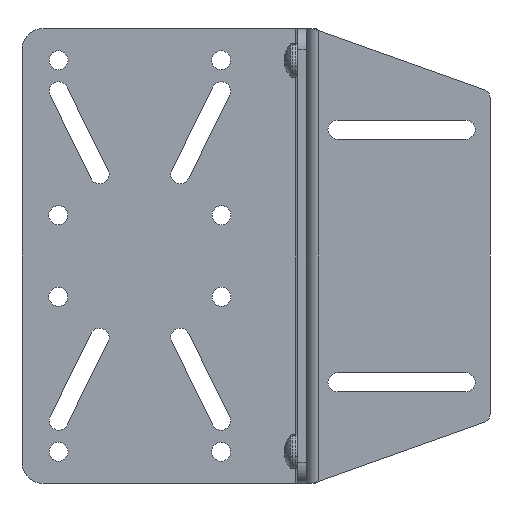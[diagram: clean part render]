
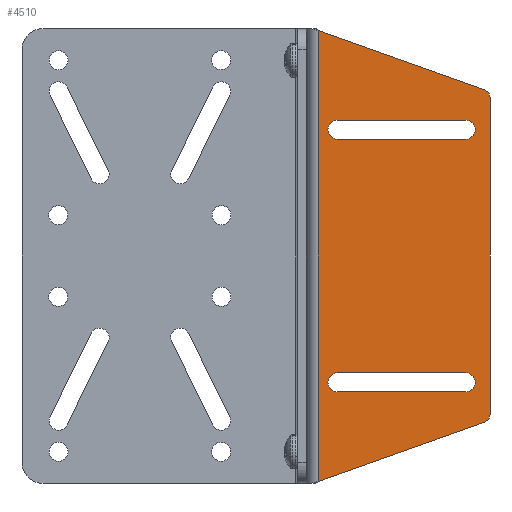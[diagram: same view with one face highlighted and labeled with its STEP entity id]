
A CAD part, front view. The second image highlights one B-rep face of the part: STEP entity #4510.
In plain terms, the highlighted planar face has unit normal (0, -1, 0).
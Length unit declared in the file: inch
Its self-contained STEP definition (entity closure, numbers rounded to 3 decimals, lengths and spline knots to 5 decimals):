
#106 = DIRECTION ( 'NONE',  ( 0., 0., 1. ) ) ;
#221 = EDGE_LOOP ( 'NONE', ( #6812, #4600, #9163, #9695 ) ) ;
#263 = CARTESIAN_POINT ( 'NONE',  ( 1.91929, 0.00404, 1.09252 ) ) ;
#352 = LINE ( 'NONE', #6564, #5195 ) ;
#536 = VERTEX_POINT ( 'NONE', #4250 ) ;
#538 = CARTESIAN_POINT ( 'NONE',  ( 0., 0.00404, 0. ) ) ;
#738 = CARTESIAN_POINT ( 'NONE',  ( 1.91929, 0.00404, 1.26969 ) ) ;
#853 = ORIENTED_EDGE ( 'NONE', *, *, #11726, .T. ) ;
#890 = VECTOR ( 'NONE', #10667, 39.37008 ) ;
#934 = CARTESIAN_POINT ( 'NONE',  ( 0.86489, 0.00404, -2.42171 ) ) ;
#936 = DIRECTION ( 'NONE',  ( 0., 0., 1. ) ) ;
#941 = CARTESIAN_POINT ( 'NONE',  ( 3.2942, 0.00404, 1.5541 ) ) ;
#960 = DIRECTION ( 'NONE',  ( 0.942, 0., -0.336 ) ) ;
#1335 = CARTESIAN_POINT ( 'NONE',  ( 1.74202, 0.00404, 0. ) ) ;
#1506 = LINE ( 'NONE', #1787, #11553 ) ;
#1605 = CARTESIAN_POINT ( 'NONE',  ( 1.91929, 0.00404, 1.09252 ) ) ;
#1633 = EDGE_CURVE ( 'NONE', #9556, #9101, #10393, .T. ) ;
#1787 = CARTESIAN_POINT ( 'NONE',  ( 3.34646, 0.00404, 0. ) ) ;
#2023 = ORIENTED_EDGE ( 'NONE', *, *, #6347, .T. ) ;
#2075 = DIRECTION ( 'NONE',  ( 0., 1., 0. ) ) ;
#2196 = EDGE_CURVE ( 'NONE', #10680, #9989, #6879, .T. ) ;
#2242 = EDGE_CURVE ( 'NONE', #2975, #5064, #8563, .T. ) ;
#2604 = EDGE_CURVE ( 'NONE', #7159, #6023, #352, .T. ) ;
#2647 = DIRECTION ( 'NONE',  ( 0., -1., 0. ) ) ;
#2749 = CIRCLE ( 'NONE', #6221, 0.08858 ) ;
#2819 = DIRECTION ( 'NONE',  ( 0., 0., -1. ) ) ;
#2975 = VERTEX_POINT ( 'NONE', #4273 ) ;
#3232 = ORIENTED_EDGE ( 'NONE', *, *, #10855, .F. ) ;
#3322 = ORIENTED_EDGE ( 'NONE', *, *, #7116, .T. ) ;
#3340 = AXIS2_PLACEMENT_3D ( 'NONE', #538, #10269, #4419 ) ;
#3394 = VECTOR ( 'NONE', #7803, 39.37008 ) ;
#3459 = VECTOR ( 'NONE', #11468, 39.37008 ) ;
#3470 = LINE ( 'NONE', #934, #890 ) ;
#3589 = CARTESIAN_POINT ( 'NONE',  ( 3.2942, 0.00404, -1.5541 ) ) ;
#3939 = CARTESIAN_POINT ( 'NONE',  ( 3.26772, 0.00404, -1.47994 ) ) ;
#4250 = CARTESIAN_POINT ( 'NONE',  ( 3.34646, 0.00404, 1.47994 ) ) ;
#4255 = AXIS2_PLACEMENT_3D ( 'NONE', #11748, #5901, #106 ) ;
#4273 = CARTESIAN_POINT ( 'NONE',  ( 1.91929, 0.00404, -1.26969 ) ) ;
#4385 = ORIENTED_EDGE ( 'NONE', *, *, #2242, .F. ) ;
#4419 = DIRECTION ( 'NONE',  ( 0., 0., 1. ) ) ;
#4510 = ADVANCED_FACE ( 'NONE', ( #10963, #6065, #8673 ), #10230, .F. ) ;
#4600 = ORIENTED_EDGE ( 'NONE', *, *, #7332, .T. ) ;
#4708 = CARTESIAN_POINT ( 'NONE',  ( 1.74202, 0.00404, -2.10845 ) ) ;
#4780 = CARTESIAN_POINT ( 'NONE',  ( 1.91929, 0.00404, -1.1811 ) ) ;
#4794 = CARTESIAN_POINT ( 'NONE',  ( 3.12008, 0.00404, -1.26969 ) ) ;
#4857 = CARTESIAN_POINT ( 'NONE',  ( 1.91929, 0.00404, -1.26969 ) ) ;
#4920 = CARTESIAN_POINT ( 'NONE',  ( 3.12008, 0.00404, -1.1811 ) ) ;
#4997 = EDGE_CURVE ( 'NONE', #9989, #536, #1506, .T. ) ;
#5064 = VERTEX_POINT ( 'NONE', #4794 ) ;
#5195 = VECTOR ( 'NONE', #10574, 39.37008 ) ;
#5355 = EDGE_CURVE ( 'NONE', #7420, #6972, #6067, .T. ) ;
#5547 = AXIS2_PLACEMENT_3D ( 'NONE', #3939, #11382, #936 ) ;
#5755 = DIRECTION ( 'NONE',  ( 0., 0., 1. ) ) ;
#5900 = DIRECTION ( 'NONE',  ( 0., 0., 1. ) ) ;
#5901 = DIRECTION ( 'NONE',  ( 0., 1., 0. ) ) ;
#6023 = VERTEX_POINT ( 'NONE', #7572 ) ;
#6031 = VERTEX_POINT ( 'NONE', #11459 ) ;
#6065 = FACE_BOUND ( 'NONE', #9966, .T. ) ;
#6067 = LINE ( 'NONE', #1605, #8974 ) ;
#6206 = ORIENTED_EDGE ( 'NONE', *, *, #1633, .T. ) ;
#6221 = AXIS2_PLACEMENT_3D ( 'NONE', #4920, #11747, #5900 ) ;
#6322 = LINE ( 'NONE', #6562, #3459 ) ;
#6347 = EDGE_CURVE ( 'NONE', #9101, #10680, #3470, .T. ) ;
#6379 = AXIS2_PLACEMENT_3D ( 'NONE', #4780, #11606, #5755 ) ;
#6562 = CARTESIAN_POINT ( 'NONE',  ( 1.91929, 0.00404, -1.09252 ) ) ;
#6564 = CARTESIAN_POINT ( 'NONE',  ( 1.91929, 0.00404, 1.26969 ) ) ;
#6808 = VECTOR ( 'NONE', #960, 39.37008 ) ;
#6812 = ORIENTED_EDGE ( 'NONE', *, *, #2604, .T. ) ;
#6879 = CIRCLE ( 'NONE', #5547, 0.07874 ) ;
#6941 = CARTESIAN_POINT ( 'NONE',  ( 1.91929, 0.00404, -1.09252 ) ) ;
#6972 = VERTEX_POINT ( 'NONE', #7182 ) ;
#7107 = AXIS2_PLACEMENT_3D ( 'NONE', #8459, #2647, #9441 ) ;
#7116 = EDGE_CURVE ( 'NONE', #536, #10277, #9860, .T. ) ;
#7159 = VERTEX_POINT ( 'NONE', #738 ) ;
#7182 = CARTESIAN_POINT ( 'NONE',  ( 3.12008, 0.00404, 1.09252 ) ) ;
#7332 = EDGE_CURVE ( 'NONE', #6023, #6972, #10934, .T. ) ;
#7420 = VERTEX_POINT ( 'NONE', #263 ) ;
#7572 = CARTESIAN_POINT ( 'NONE',  ( 3.12008, 0.00404, 1.26969 ) ) ;
#7600 = ORIENTED_EDGE ( 'NONE', *, *, #7786, .T. ) ;
#7605 = DIRECTION ( 'NONE',  ( 0., 0., 1. ) ) ;
#7786 = EDGE_CURVE ( 'NONE', #2975, #11967, #12441, .T. ) ;
#7803 = DIRECTION ( 'NONE',  ( 1., 0., 0. ) ) ;
#7812 = VECTOR ( 'NONE', #2819, 39.37008 ) ;
#7890 = CARTESIAN_POINT ( 'NONE',  ( 1.91929, 0.00404, 1.1811 ) ) ;
#8050 = EDGE_LOOP ( 'NONE', ( #3232, #6206, #2023, #8626, #10596, #3322 ) ) ;
#8365 = CARTESIAN_POINT ( 'NONE',  ( 1.74202, 0.00404, 2.10845 ) ) ;
#8415 = DIRECTION ( 'NONE',  ( 1., 0., 0. ) ) ;
#8459 = CARTESIAN_POINT ( 'NONE',  ( 3.26772, 0.00404, 1.47994 ) ) ;
#8563 = LINE ( 'NONE', #4857, #3394 ) ;
#8626 = ORIENTED_EDGE ( 'NONE', *, *, #2196, .T. ) ;
#8673 = FACE_OUTER_BOUND ( 'NONE', #8050, .T. ) ;
#8773 = ORIENTED_EDGE ( 'NONE', *, *, #9185, .T. ) ;
#8866 = DIRECTION ( 'NONE',  ( 0., 0., 1. ) ) ;
#8974 = VECTOR ( 'NONE', #8415, 39.37008 ) ;
#9101 = VERTEX_POINT ( 'NONE', #4708 ) ;
#9163 = ORIENTED_EDGE ( 'NONE', *, *, #5355, .F. ) ;
#9185 = EDGE_CURVE ( 'NONE', #6031, #5064, #2749, .T. ) ;
#9252 = CARTESIAN_POINT ( 'NONE',  ( 3.34646, 0.00404, -1.47994 ) ) ;
#9407 = LINE ( 'NONE', #10615, #6808 ) ;
#9441 = DIRECTION ( 'NONE',  ( 0., 0., 1. ) ) ;
#9544 = AXIS2_PLACEMENT_3D ( 'NONE', #7890, #2075, #8866 ) ;
#9556 = VERTEX_POINT ( 'NONE', #8365 ) ;
#9695 = ORIENTED_EDGE ( 'NONE', *, *, #10921, .T. ) ;
#9860 = CIRCLE ( 'NONE', #7107, 0.07874 ) ;
#9966 = EDGE_LOOP ( 'NONE', ( #853, #8773, #4385, #7600 ) ) ;
#9989 = VERTEX_POINT ( 'NONE', #9252 ) ;
#10230 = PLANE ( 'NONE',  #3340 ) ;
#10269 = DIRECTION ( 'NONE',  ( 0., 1., 0. ) ) ;
#10277 = VERTEX_POINT ( 'NONE', #941 ) ;
#10393 = LINE ( 'NONE', #1335, #7812 ) ;
#10574 = DIRECTION ( 'NONE',  ( 1., 0., 0. ) ) ;
#10596 = ORIENTED_EDGE ( 'NONE', *, *, #4997, .T. ) ;
#10615 = CARTESIAN_POINT ( 'NONE',  ( 0.86489, 0.00404, 2.42171 ) ) ;
#10667 = DIRECTION ( 'NONE',  ( 0.942, 0., 0.336 ) ) ;
#10680 = VERTEX_POINT ( 'NONE', #3589 ) ;
#10855 = EDGE_CURVE ( 'NONE', #9556, #10277, #9407, .T. ) ;
#10921 = EDGE_CURVE ( 'NONE', #7420, #7159, #11385, .T. ) ;
#10934 = CIRCLE ( 'NONE', #4255, 0.08858 ) ;
#10963 = FACE_BOUND ( 'NONE', #221, .T. ) ;
#11382 = DIRECTION ( 'NONE',  ( 0., -1., 0. ) ) ;
#11385 = CIRCLE ( 'NONE', #9544, 0.08858 ) ;
#11459 = CARTESIAN_POINT ( 'NONE',  ( 3.12008, 0.00404, -1.09252 ) ) ;
#11468 = DIRECTION ( 'NONE',  ( 1., 0., 0. ) ) ;
#11553 = VECTOR ( 'NONE', #7605, 39.37008 ) ;
#11606 = DIRECTION ( 'NONE',  ( 0., 1., 0. ) ) ;
#11726 = EDGE_CURVE ( 'NONE', #11967, #6031, #6322, .T. ) ;
#11747 = DIRECTION ( 'NONE',  ( 0., 1., 0. ) ) ;
#11748 = CARTESIAN_POINT ( 'NONE',  ( 3.12008, 0.00404, 1.1811 ) ) ;
#11967 = VERTEX_POINT ( 'NONE', #6941 ) ;
#12441 = CIRCLE ( 'NONE', #6379, 0.08858 ) ;
